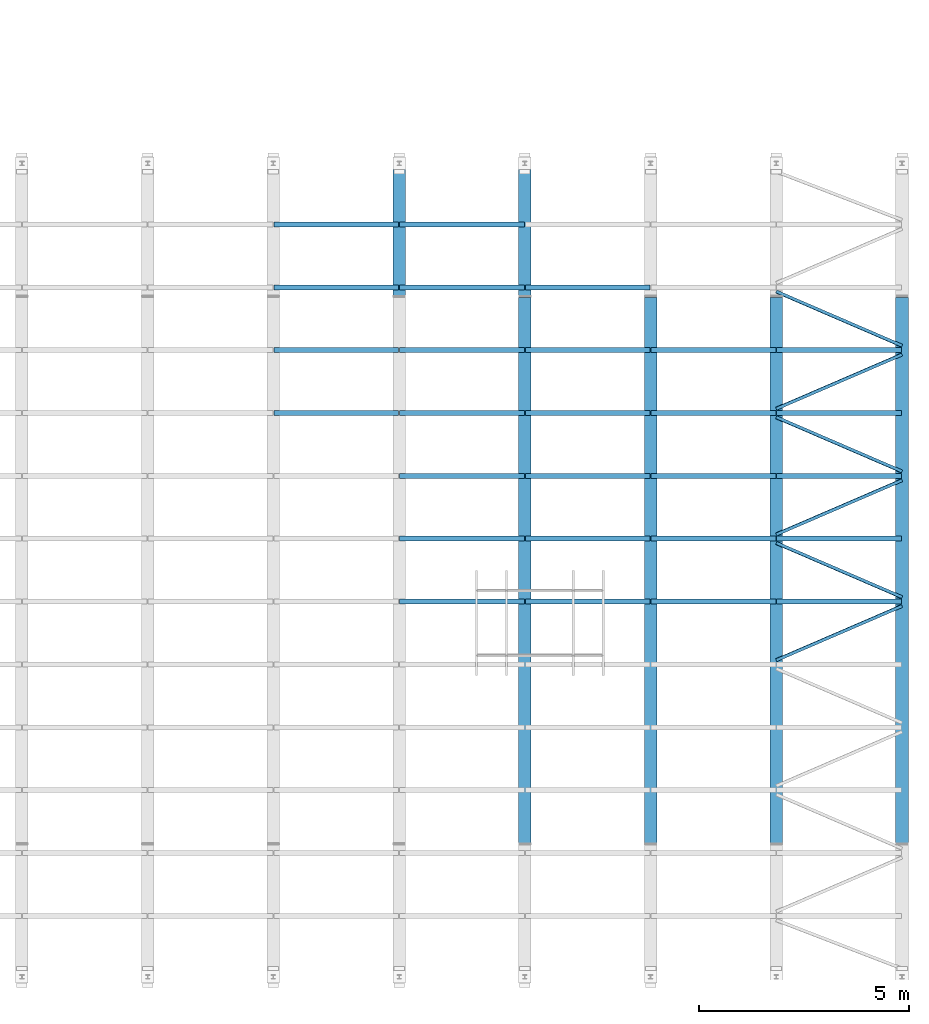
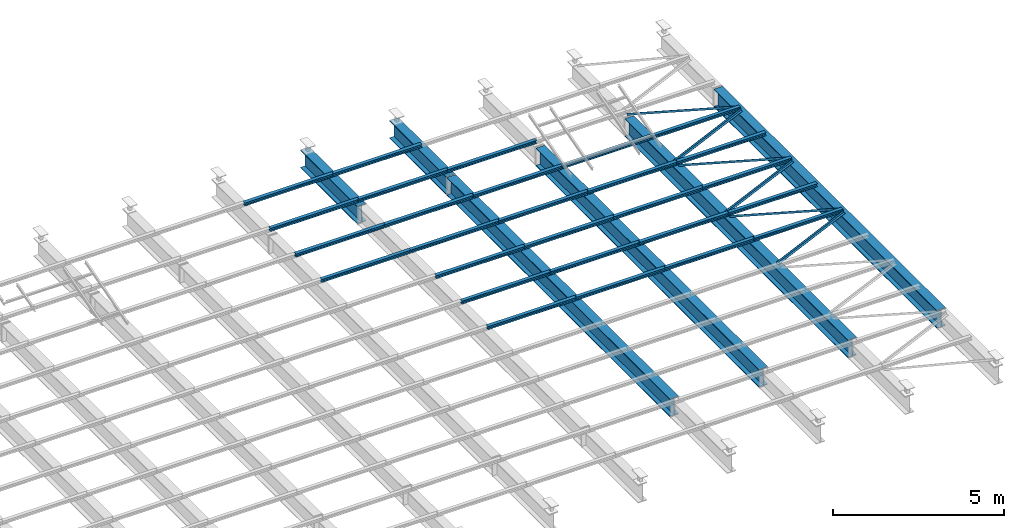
# One storey, part 69 of 139: 39 beams.
"""IFC2X3 building model written with IfcOpenShell, lengths in metres."""

from ifc_helpers import new_model, entity, si_unit, converted_unit, derived_unit, frame, origin, place, context, subcontext, project, spatial, polyline, outline, extrude, material, element, save


model = new_model("IFC2X3")

# Units and contexts
model_context = context("Model", 3, precision=1e-05, world=origin())
body_context = subcontext(model_context, "Body", "Model", "MODEL_VIEW")
ifc_project = project(units=[si_unit("LENGTHUNIT", "METRE"), si_unit("AREAUNIT", "SQUARE_METRE"), si_unit("VOLUMEUNIT", "CUBIC_METRE"), si_unit("MASSUNIT", "GRAM", prefix="KILO"), converted_unit("PLANEANGLEUNIT", "DEGREE", entity("IfcPlaneAngleMeasure", 0.0174532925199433), si_unit("PLANEANGLEUNIT", "RADIAN"), dimensions=[0, 0, 0, 0, 0, 0, 0]), derived_unit("THERMALTRANSMITTANCEUNIT", [(si_unit("POWERUNIT", "WATT"), 1), (si_unit("THERMODYNAMICTEMPERATUREUNIT", "KELVIN"), -1), (si_unit("LENGTHUNIT", "METRE"), -2)]), derived_unit("VOLUMETRICFLOWRATEUNIT", [(si_unit("LENGTHUNIT", "METRE"), 3), (converted_unit("TIMEUNIT", "hour", entity("IfcTimeMeasure", 3600.0), si_unit("TIMEUNIT", "SECOND"), dimensions=[0, 0, 1, 0, 0, 0, 0]), -1), (si_unit("LENGTHUNIT", "METRE"), -1)])], contexts=[model_context])

# Site, building, storey
site_placement = place(None, origin())
site = spatial("IfcSite", under=ifc_project, at=site_placement, Name="TWP_Speiseverteilzentrum SBW VZ II", CompositionType="ELEMENT")
building_placement = place(site_placement, origin())
building = spatial("IfcBuilding", under=site, at=building_placement, Name="Speiseverteilzentrum SBW VZ II", CompositionType="ELEMENT")
storey_placement = place(building_placement, frame((0.0, 0.0, 7.1307)))
storey = spatial("IfcBuildingStorey", under=building, at=storey_placement, Name="Wartung_FFB", CompositionType="ELEMENT", Elevation=7.1307)

# Beams
ifc_material_1 = material(Name="S235")
beam_1_placement = place(storey_placement, frame((112.050000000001, 26.9020742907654, -0.51), z_axis=(0.0, 0.0, 1.0), x_axis=(-1.0, 0.0, 0.0)))
element("IfcBeam", 1, at=beam_1_placement, inside=storey, material=ifc_material_1, Name="Stahlträger", context=body_context, shape_type="SweptSolid", body=[
    extrude(outline(polyline([(-0.15, 0.32), (-0.15, 0.294), (-0.00675000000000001, 0.294), (-0.00675000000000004, -0.294), (-0.15, -0.294), (-0.15, -0.32), (0.15, -0.32), (0.15, -0.294), (0.00674999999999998, -0.294), (0.00675000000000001, 0.294), (0.15, 0.294), (0.15, 0.32), (-0.15, 0.32)])), frame((0.0, 0.0, 0.0), z_axis=(0.0, 1.0, 0.0), x_axis=(-1.0, 0.0, 0.0)), (0.0, 0.0, 1.0), 13.014),
])
ifc_material_2 = material(Name="S235")
beam_2_placement = place(storey_placement, frame((115.050000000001, 26.9020742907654, -0.51), z_axis=(0.0, 0.0, 1.0), x_axis=(-1.0, 0.0, 0.0)))
element("IfcBeam", 2, at=beam_2_placement, inside=storey, material=ifc_material_2, Name="Stahlträger", context=body_context, shape_type="SweptSolid", body=[
    extrude(outline(polyline([(-0.15, 0.32), (-0.15, 0.294), (-0.00675000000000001, 0.294), (-0.00675000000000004, -0.294), (-0.15, -0.294), (-0.15, -0.32), (0.15, -0.32), (0.15, -0.294), (0.00674999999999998, -0.294), (0.00675000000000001, 0.294), (0.15, 0.294), (0.15, 0.32), (-0.15, 0.32)])), frame((0.0, 0.0, 0.0), z_axis=(0.0, 1.0, 0.0), x_axis=(-1.0, 0.0, 0.0)), (0.0, 0.0, 1.0), 13.014),
])
ifc_material_3 = material(Name="S235")
beam_3_placement = place(storey_placement, frame((118.050000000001, 26.9020742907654, -0.51), z_axis=(0.0, 0.0, 1.0), x_axis=(-1.0, 0.0, 0.0)))
element("IfcBeam", 3, at=beam_3_placement, inside=storey, material=ifc_material_3, Name="Stahlträger", context=body_context, shape_type="SweptSolid", body=[
    extrude(outline(polyline([(-0.15, 0.32), (-0.15, 0.294), (-0.00675000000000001, 0.294), (-0.00675000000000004, -0.294), (-0.15, -0.294), (-0.15, -0.32), (0.15, -0.32), (0.15, -0.294), (0.00674999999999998, -0.294), (0.00675000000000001, 0.294), (0.15, 0.294), (0.15, 0.32), (-0.15, 0.32)])), frame((0.0, 0.0, 0.0), z_axis=(0.0, 1.0, 0.0), x_axis=(-1.0, 0.0, 0.0)), (0.0, 0.0, 1.0), 13.014),
])
ifc_material_4 = material(Name="S235")
beam_4_placement = place(storey_placement, frame((121.050000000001, 26.9020742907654, -0.51), z_axis=(0.0, 0.0, 1.0), x_axis=(-1.0, 0.0, 0.0)))
element("IfcBeam", 4, at=beam_4_placement, inside=storey, material=ifc_material_4, Name="Stahlträger", context=body_context, shape_type="SweptSolid", body=[
    extrude(outline(polyline([(-0.15, 0.32), (-0.15, 0.294), (-0.00675000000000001, 0.294), (-0.00675000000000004, -0.294), (-0.15, -0.294), (-0.15, -0.32), (0.15, -0.32), (0.15, -0.294), (0.00674999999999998, -0.294), (0.00675000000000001, 0.294), (0.15, 0.294), (0.15, 0.32), (-0.15, 0.32)])), frame((0.0, 0.0, 0.0), z_axis=(0.0, 1.0, 0.0), x_axis=(-1.0, 0.0, 0.0)), (0.0, 0.0, 1.0), 13.014),
])
ifc_material_5 = material(Name="S235")
beam_5_placement = place(storey_placement, frame((109.050000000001, 30.2500000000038, -0.51), z_axis=(0.0, 0.0, 1.0), x_axis=(-1.0, 0.0, 0.0)))
element("IfcBeam", 5, at=beam_5_placement, inside=storey, material=ifc_material_5, Name="Stahlträger", context=body_context, shape_type="SweptSolid", body=[
    extrude(outline(polyline([(-0.15, 0.32), (-0.15, 0.294), (-0.00675000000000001, 0.294), (-0.00675000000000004, -0.294), (-0.15, -0.294), (-0.15, -0.32), (0.15, -0.32), (0.15, -0.294), (0.00674999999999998, -0.294), (0.00675000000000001, 0.294), (0.15, 0.294), (0.15, 0.32), (-0.15, 0.32)])), frame((0.0, 0.0, 0.0), z_axis=(0.0, 1.0, 0.0), x_axis=(-1.0, 0.0, 0.0)), (0.0, 0.0, 1.0), 3.29792570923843),
])
ifc_material_6 = material(Name="S235")
beam_6_placement = place(storey_placement, frame((112.050000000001, 30.2500000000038, -0.51), z_axis=(0.0, 0.0, 1.0), x_axis=(-1.0, 0.0, 0.0)))
element("IfcBeam", 6, at=beam_6_placement, inside=storey, material=ifc_material_6, Name="Stahlträger", context=body_context, shape_type="SweptSolid", body=[
    extrude(outline(polyline([(-0.15, 0.32), (-0.15, 0.294), (-0.00675000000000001, 0.294), (-0.00675000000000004, -0.294), (-0.15, -0.294), (-0.15, -0.32), (0.15, -0.32), (0.15, -0.294), (0.00674999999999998, -0.294), (0.00675000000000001, 0.294), (0.15, 0.294), (0.15, 0.32), (-0.15, 0.32)])), frame((0.0, 0.0, 0.0), z_axis=(0.0, 1.0, 0.0), x_axis=(-1.0, 0.0, 0.0)), (0.0, 0.0, 1.0), 3.29792570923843),
])
ifc_material_7 = material(Name="S235")
beam_7_placement = place(storey_placement, frame((106.060000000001, 28.6450742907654, -0.133), z_axis=(0.0, 0.0, 1.0), x_axis=(0.0, -1.0, 0.0)))
element("IfcBeam", 7, at=beam_7_placement, inside=storey, material=ifc_material_7, Name="Nebenträger", context=body_context, shape_type="SweptSolid", body=[
    extrude(outline(polyline([(-0.06, 0.0570000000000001), (-0.06, 0.0490000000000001), (-0.00249999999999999, 0.0490000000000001), (-0.0025, -0.0489999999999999), (-0.06, -0.0489999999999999), (-0.06, -0.0569999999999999), (0.06, -0.0569999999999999), (0.06, -0.0489999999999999), (0.0025, -0.0489999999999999), (0.00250000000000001, 0.0490000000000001), (0.06, 0.0490000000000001), (0.06, 0.0570000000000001), (-0.06, 0.0570000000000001)])), frame((0.0, 0.0, 0.0), z_axis=(0.0, 1.0, 0.0), x_axis=(-1.0, 0.0, 0.0)), (0.0, 0.0, 1.0), 2.98),
])
ifc_material_8 = material(Name="S235")
beam_8_placement = place(storey_placement, frame((109.060000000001, 28.6450742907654, -0.133), z_axis=(0.0, 0.0, 1.0), x_axis=(0.0, -1.0, 0.0)))
element("IfcBeam", 8, at=beam_8_placement, inside=storey, material=ifc_material_8, Name="Nebenträger", context=body_context, shape_type="SweptSolid", body=[
    extrude(outline(polyline([(-0.06, 0.0570000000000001), (-0.06, 0.0490000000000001), (-0.00249999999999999, 0.0490000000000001), (-0.0025, -0.0489999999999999), (-0.06, -0.0489999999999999), (-0.06, -0.0569999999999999), (0.06, -0.0569999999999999), (0.06, -0.0489999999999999), (0.0025, -0.0489999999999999), (0.00250000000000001, 0.0490000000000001), (0.06, 0.0490000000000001), (0.06, 0.0570000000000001), (-0.06, 0.0570000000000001)])), frame((0.0, 0.0, 0.0), z_axis=(0.0, 1.0, 0.0), x_axis=(-1.0, 0.0, 0.0)), (0.0, 0.0, 1.0), 2.98),
])
ifc_material_9 = material(Name="S235")
beam_9_placement = place(storey_placement, frame((106.060000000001, 27.1450742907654, -0.133), z_axis=(0.0, 0.0, 1.0), x_axis=(0.0, -1.0, 0.0)))
element("IfcBeam", 9, at=beam_9_placement, inside=storey, material=ifc_material_9, Name="Nebenträger", context=body_context, shape_type="SweptSolid", body=[
    extrude(outline(polyline([(-0.06, 0.0570000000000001), (-0.06, 0.0490000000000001), (-0.00249999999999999, 0.0490000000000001), (-0.0025, -0.0489999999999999), (-0.06, -0.0489999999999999), (-0.06, -0.0569999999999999), (0.06, -0.0569999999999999), (0.06, -0.0489999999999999), (0.0025, -0.0489999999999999), (0.00250000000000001, 0.0490000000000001), (0.06, 0.0490000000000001), (0.06, 0.0570000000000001), (-0.06, 0.0570000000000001)])), frame((0.0, 0.0, 0.0), z_axis=(0.0, 1.0, 0.0), x_axis=(-1.0, 0.0, 0.0)), (0.0, 0.0, 1.0), 2.98),
])
ifc_material_10 = material(Name="S235")
beam_10_placement = place(storey_placement, frame((109.060000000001, 27.1450742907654, -0.133), z_axis=(0.0, 0.0, 1.0), x_axis=(0.0, -1.0, 0.0)))
element("IfcBeam", 10, at=beam_10_placement, inside=storey, material=ifc_material_10, Name="Nebenträger", context=body_context, shape_type="SweptSolid", body=[
    extrude(outline(polyline([(-0.06, 0.0570000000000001), (-0.06, 0.0490000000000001), (-0.00249999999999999, 0.0490000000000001), (-0.0025, -0.0489999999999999), (-0.06, -0.0489999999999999), (-0.06, -0.0569999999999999), (0.06, -0.0569999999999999), (0.06, -0.0489999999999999), (0.0025, -0.0489999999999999), (0.00250000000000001, 0.0490000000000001), (0.06, 0.0490000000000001), (0.06, 0.0570000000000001), (-0.06, 0.0570000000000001)])), frame((0.0, 0.0, 0.0), z_axis=(0.0, 1.0, 0.0), x_axis=(-1.0, 0.0, 0.0)), (0.0, 0.0, 1.0), 2.98),
])
ifc_material_11 = material(Name="S235")
beam_11_placement = place(storey_placement, frame((112.060000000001, 27.1450742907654, -0.133), z_axis=(0.0, 0.0, 1.0), x_axis=(0.0, -1.0, 0.0)))
element("IfcBeam", 11, at=beam_11_placement, inside=storey, material=ifc_material_11, Name="Nebenträger", context=body_context, shape_type="SweptSolid", body=[
    extrude(outline(polyline([(-0.06, 0.0570000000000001), (-0.06, 0.0490000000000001), (-0.00249999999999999, 0.0490000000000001), (-0.0025, -0.0489999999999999), (-0.06, -0.0489999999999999), (-0.06, -0.0569999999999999), (0.06, -0.0569999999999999), (0.06, -0.0489999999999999), (0.0025, -0.0489999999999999), (0.00250000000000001, 0.0490000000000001), (0.06, 0.0490000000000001), (0.06, 0.0570000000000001), (-0.06, 0.0570000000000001)])), frame((0.0, 0.0, 0.0), z_axis=(0.0, 1.0, 0.0), x_axis=(-1.0, 0.0, 0.0)), (0.0, 0.0, 1.0), 2.98),
])
ifc_material_12 = material(Name="S235")
beam_12_placement = place(storey_placement, frame((106.060000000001, 25.6450742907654, -0.133), z_axis=(0.0, 0.0, 1.0), x_axis=(0.0, -1.0, 0.0)))
element("IfcBeam", 12, at=beam_12_placement, inside=storey, material=ifc_material_12, Name="Nebenträger", context=body_context, shape_type="SweptSolid", body=[
    extrude(outline(polyline([(-0.06, 0.0570000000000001), (-0.06, 0.0490000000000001), (-0.00249999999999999, 0.0490000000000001), (-0.0025, -0.0489999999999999), (-0.06, -0.0489999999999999), (-0.06, -0.0569999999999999), (0.06, -0.0569999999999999), (0.06, -0.0489999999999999), (0.0025, -0.0489999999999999), (0.00250000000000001, 0.0490000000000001), (0.06, 0.0490000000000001), (0.06, 0.0570000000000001), (-0.06, 0.0570000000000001)])), frame((0.0, 0.0, 0.0), z_axis=(0.0, 1.0, 0.0), x_axis=(-1.0, 0.0, 0.0)), (0.0, 0.0, 1.0), 2.98),
])
ifc_material_13 = material(Name="S235")
beam_13_placement = place(storey_placement, frame((109.060000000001, 25.6450742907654, -0.133), z_axis=(0.0, 0.0, 1.0), x_axis=(0.0, -1.0, 0.0)))
element("IfcBeam", 13, at=beam_13_placement, inside=storey, material=ifc_material_13, Name="Nebenträger", context=body_context, shape_type="SweptSolid", body=[
    extrude(outline(polyline([(-0.06, 0.0570000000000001), (-0.06, 0.0490000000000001), (-0.00249999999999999, 0.0490000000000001), (-0.0025, -0.0489999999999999), (-0.06, -0.0489999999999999), (-0.06, -0.0569999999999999), (0.06, -0.0569999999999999), (0.06, -0.0489999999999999), (0.0025, -0.0489999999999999), (0.00250000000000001, 0.0490000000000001), (0.06, 0.0490000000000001), (0.06, 0.0570000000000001), (-0.06, 0.0570000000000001)])), frame((0.0, 0.0, 0.0), z_axis=(0.0, 1.0, 0.0), x_axis=(-1.0, 0.0, 0.0)), (0.0, 0.0, 1.0), 2.98),
])
ifc_material_14 = material(Name="S235")
beam_14_placement = place(storey_placement, frame((112.060000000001, 25.6450742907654, -0.133), z_axis=(0.0, 0.0, 1.0), x_axis=(0.0, -1.0, 0.0)))
element("IfcBeam", 14, at=beam_14_placement, inside=storey, material=ifc_material_14, Name="Nebenträger", context=body_context, shape_type="SweptSolid", body=[
    extrude(outline(polyline([(-0.06, 0.0570000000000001), (-0.06, 0.0490000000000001), (-0.00249999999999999, 0.0490000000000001), (-0.0025, -0.0489999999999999), (-0.06, -0.0489999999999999), (-0.06, -0.0569999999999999), (0.06, -0.0569999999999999), (0.06, -0.0489999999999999), (0.0025, -0.0489999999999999), (0.00250000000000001, 0.0490000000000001), (0.06, 0.0490000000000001), (0.06, 0.0570000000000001), (-0.06, 0.0570000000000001)])), frame((0.0, 0.0, 0.0), z_axis=(0.0, 1.0, 0.0), x_axis=(-1.0, 0.0, 0.0)), (0.0, 0.0, 1.0), 2.98),
])
ifc_material_15 = material(Name="S235")
beam_15_placement = place(storey_placement, frame((115.060000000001, 25.6450742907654, -0.133), z_axis=(0.0, 0.0, 1.0), x_axis=(0.0, -1.0, 0.0)))
element("IfcBeam", 15, at=beam_15_placement, inside=storey, material=ifc_material_15, Name="Nebenträger", context=body_context, shape_type="SweptSolid", body=[
    extrude(outline(polyline([(-0.06, 0.0570000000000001), (-0.06, 0.0490000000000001), (-0.00249999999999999, 0.0490000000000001), (-0.0025, -0.0489999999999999), (-0.06, -0.0489999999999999), (-0.06, -0.0569999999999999), (0.06, -0.0569999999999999), (0.06, -0.0489999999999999), (0.0025, -0.0489999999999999), (0.00250000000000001, 0.0490000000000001), (0.06, 0.0490000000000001), (0.06, 0.0570000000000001), (-0.06, 0.0570000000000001)])), frame((0.0, 0.0, 0.0), z_axis=(0.0, 1.0, 0.0), x_axis=(-1.0, 0.0, 0.0)), (0.0, 0.0, 1.0), 2.98),
])
ifc_material_16 = material(Name="S235")
beam_16_placement = place(storey_placement, frame((118.060000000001, 25.6450742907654, -0.133), z_axis=(0.0, 0.0, 1.0), x_axis=(0.0, -1.0, 0.0)))
element("IfcBeam", 16, at=beam_16_placement, inside=storey, material=ifc_material_16, Name="Nebenträger", context=body_context, shape_type="SweptSolid", body=[
    extrude(outline(polyline([(-0.06, 0.0570000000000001), (-0.06, 0.0490000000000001), (-0.00249999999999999, 0.0490000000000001), (-0.0025, -0.0489999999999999), (-0.06, -0.0489999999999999), (-0.06, -0.0569999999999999), (0.06, -0.0569999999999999), (0.06, -0.0489999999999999), (0.0025, -0.0489999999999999), (0.00250000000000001, 0.0490000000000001), (0.06, 0.0490000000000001), (0.06, 0.0570000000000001), (-0.06, 0.0570000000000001)])), frame((0.0, 0.0, 0.0), z_axis=(0.0, 1.0, 0.0), x_axis=(-1.0, 0.0, 0.0)), (0.0, 0.0, 1.0), 2.98),
])
ifc_material_17 = material(Name="S235")
beam_17_placement = place(storey_placement, frame((106.060000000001, 24.1450742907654, -0.133), z_axis=(0.0, 0.0, 1.0), x_axis=(0.0, -1.0, 0.0)))
element("IfcBeam", 17, at=beam_17_placement, inside=storey, material=ifc_material_17, Name="Nebenträger", context=body_context, shape_type="SweptSolid", body=[
    extrude(outline(polyline([(-0.06, 0.0570000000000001), (-0.06, 0.0490000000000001), (-0.00249999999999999, 0.0490000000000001), (-0.0025, -0.0489999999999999), (-0.06, -0.0489999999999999), (-0.06, -0.0569999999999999), (0.06, -0.0569999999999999), (0.06, -0.0489999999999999), (0.0025, -0.0489999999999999), (0.00250000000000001, 0.0490000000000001), (0.06, 0.0490000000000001), (0.06, 0.0570000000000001), (-0.06, 0.0570000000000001)])), frame((0.0, 0.0, 0.0), z_axis=(0.0, 1.0, 0.0), x_axis=(-1.0, 0.0, 0.0)), (0.0, 0.0, 1.0), 2.98),
])
ifc_material_18 = material(Name="S235")
beam_18_placement = place(storey_placement, frame((109.060000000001, 24.1450742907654, -0.133), z_axis=(0.0, 0.0, 1.0), x_axis=(0.0, -1.0, 0.0)))
element("IfcBeam", 18, at=beam_18_placement, inside=storey, material=ifc_material_18, Name="Nebenträger", context=body_context, shape_type="SweptSolid", body=[
    extrude(outline(polyline([(-0.06, 0.0570000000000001), (-0.06, 0.0490000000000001), (-0.00249999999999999, 0.0490000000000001), (-0.0025, -0.0489999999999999), (-0.06, -0.0489999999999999), (-0.06, -0.0569999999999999), (0.06, -0.0569999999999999), (0.06, -0.0489999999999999), (0.0025, -0.0489999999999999), (0.00250000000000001, 0.0490000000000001), (0.06, 0.0490000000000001), (0.06, 0.0570000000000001), (-0.06, 0.0570000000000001)])), frame((0.0, 0.0, 0.0), z_axis=(0.0, 1.0, 0.0), x_axis=(-1.0, 0.0, 0.0)), (0.0, 0.0, 1.0), 2.98),
])
ifc_material_19 = material(Name="S235")
beam_19_placement = place(storey_placement, frame((112.060000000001, 24.1450742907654, -0.133), z_axis=(0.0, 0.0, 1.0), x_axis=(0.0, -1.0, 0.0)))
element("IfcBeam", 19, at=beam_19_placement, inside=storey, material=ifc_material_19, Name="Nebenträger", context=body_context, shape_type="SweptSolid", body=[
    extrude(outline(polyline([(-0.06, 0.0570000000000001), (-0.06, 0.0490000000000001), (-0.00249999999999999, 0.0490000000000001), (-0.0025, -0.0489999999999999), (-0.06, -0.0489999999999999), (-0.06, -0.0569999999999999), (0.06, -0.0569999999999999), (0.06, -0.0489999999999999), (0.0025, -0.0489999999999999), (0.00250000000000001, 0.0490000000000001), (0.06, 0.0490000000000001), (0.06, 0.0570000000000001), (-0.06, 0.0570000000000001)])), frame((0.0, 0.0, 0.0), z_axis=(0.0, 1.0, 0.0), x_axis=(-1.0, 0.0, 0.0)), (0.0, 0.0, 1.0), 2.98),
])
ifc_material_20 = material(Name="S235")
beam_20_placement = place(storey_placement, frame((115.060000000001, 24.1450742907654, -0.133), z_axis=(0.0, 0.0, 1.0), x_axis=(0.0, -1.0, 0.0)))
element("IfcBeam", 20, at=beam_20_placement, inside=storey, material=ifc_material_20, Name="Nebenträger", context=body_context, shape_type="SweptSolid", body=[
    extrude(outline(polyline([(-0.06, 0.0570000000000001), (-0.06, 0.0490000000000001), (-0.00249999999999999, 0.0490000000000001), (-0.0025, -0.0489999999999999), (-0.06, -0.0489999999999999), (-0.06, -0.0569999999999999), (0.06, -0.0569999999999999), (0.06, -0.0489999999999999), (0.0025, -0.0489999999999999), (0.00250000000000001, 0.0490000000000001), (0.06, 0.0490000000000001), (0.06, 0.0570000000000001), (-0.06, 0.0570000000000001)])), frame((0.0, 0.0, 0.0), z_axis=(0.0, 1.0, 0.0), x_axis=(-1.0, 0.0, 0.0)), (0.0, 0.0, 1.0), 2.98),
])
ifc_material_21 = material(Name="S235")
beam_21_placement = place(storey_placement, frame((118.060000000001, 24.1450742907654, -0.133), z_axis=(0.0, 0.0, 1.0), x_axis=(0.0, -1.0, 0.0)))
element("IfcBeam", 21, at=beam_21_placement, inside=storey, material=ifc_material_21, Name="Nebenträger", context=body_context, shape_type="SweptSolid", body=[
    extrude(outline(polyline([(-0.06, 0.0570000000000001), (-0.06, 0.0490000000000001), (-0.00249999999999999, 0.0490000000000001), (-0.0025, -0.0489999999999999), (-0.06, -0.0489999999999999), (-0.06, -0.0569999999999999), (0.06, -0.0569999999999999), (0.06, -0.0489999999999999), (0.0025, -0.0489999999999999), (0.00250000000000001, 0.0490000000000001), (0.06, 0.0490000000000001), (0.06, 0.0570000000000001), (-0.06, 0.0570000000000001)])), frame((0.0, 0.0, 0.0), z_axis=(0.0, 1.0, 0.0), x_axis=(-1.0, 0.0, 0.0)), (0.0, 0.0, 1.0), 2.98),
])
ifc_material_22 = material(Name="S235")
beam_22_placement = place(storey_placement, frame((109.060000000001, 22.6450742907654, -0.133), z_axis=(0.0, 0.0, 1.0), x_axis=(0.0, -1.0, 0.0)))
element("IfcBeam", 22, at=beam_22_placement, inside=storey, material=ifc_material_22, Name="Nebenträger", context=body_context, shape_type="SweptSolid", body=[
    extrude(outline(polyline([(-0.06, 0.0570000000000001), (-0.06, 0.0490000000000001), (-0.00249999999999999, 0.0490000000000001), (-0.0025, -0.0489999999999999), (-0.06, -0.0489999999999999), (-0.06, -0.0569999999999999), (0.06, -0.0569999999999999), (0.06, -0.0489999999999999), (0.0025, -0.0489999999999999), (0.00250000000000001, 0.0490000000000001), (0.06, 0.0490000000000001), (0.06, 0.0570000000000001), (-0.06, 0.0570000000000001)])), frame((0.0, 0.0, 0.0), z_axis=(0.0, 1.0, 0.0), x_axis=(-1.0, 0.0, 0.0)), (0.0, 0.0, 1.0), 2.98),
])
ifc_material_23 = material(Name="S235")
beam_23_placement = place(storey_placement, frame((112.060000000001, 22.6450742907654, -0.133), z_axis=(0.0, 0.0, 1.0), x_axis=(0.0, -1.0, 0.0)))
element("IfcBeam", 23, at=beam_23_placement, inside=storey, material=ifc_material_23, Name="Nebenträger", context=body_context, shape_type="SweptSolid", body=[
    extrude(outline(polyline([(-0.06, 0.0570000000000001), (-0.06, 0.0490000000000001), (-0.00249999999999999, 0.0490000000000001), (-0.0025, -0.0489999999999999), (-0.06, -0.0489999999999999), (-0.06, -0.0569999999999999), (0.06, -0.0569999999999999), (0.06, -0.0489999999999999), (0.0025, -0.0489999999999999), (0.00250000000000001, 0.0490000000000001), (0.06, 0.0490000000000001), (0.06, 0.0570000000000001), (-0.06, 0.0570000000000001)])), frame((0.0, 0.0, 0.0), z_axis=(0.0, 1.0, 0.0), x_axis=(-1.0, 0.0, 0.0)), (0.0, 0.0, 1.0), 2.98),
])
ifc_material_24 = material(Name="S235")
beam_24_placement = place(storey_placement, frame((115.060000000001, 22.6450742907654, -0.133), z_axis=(0.0, 0.0, 1.0), x_axis=(0.0, -1.0, 0.0)))
element("IfcBeam", 24, at=beam_24_placement, inside=storey, material=ifc_material_24, Name="Nebenträger", context=body_context, shape_type="SweptSolid", body=[
    extrude(outline(polyline([(-0.06, 0.0570000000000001), (-0.06, 0.0490000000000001), (-0.00249999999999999, 0.0490000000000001), (-0.0025, -0.0489999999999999), (-0.06, -0.0489999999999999), (-0.06, -0.0569999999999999), (0.06, -0.0569999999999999), (0.06, -0.0489999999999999), (0.0025, -0.0489999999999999), (0.00250000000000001, 0.0490000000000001), (0.06, 0.0490000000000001), (0.06, 0.0570000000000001), (-0.06, 0.0570000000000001)])), frame((0.0, 0.0, 0.0), z_axis=(0.0, 1.0, 0.0), x_axis=(-1.0, 0.0, 0.0)), (0.0, 0.0, 1.0), 2.98),
])
ifc_material_25 = material(Name="S235")
beam_25_placement = place(storey_placement, frame((118.060000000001, 22.6450742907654, -0.133), z_axis=(0.0, 0.0, 1.0), x_axis=(0.0, -1.0, 0.0)))
element("IfcBeam", 25, at=beam_25_placement, inside=storey, material=ifc_material_25, Name="Nebenträger", context=body_context, shape_type="SweptSolid", body=[
    extrude(outline(polyline([(-0.06, 0.0570000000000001), (-0.06, 0.0490000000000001), (-0.00249999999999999, 0.0490000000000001), (-0.0025, -0.0489999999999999), (-0.06, -0.0489999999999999), (-0.06, -0.0569999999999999), (0.06, -0.0569999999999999), (0.06, -0.0489999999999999), (0.0025, -0.0489999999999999), (0.00250000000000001, 0.0490000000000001), (0.06, 0.0490000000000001), (0.06, 0.0570000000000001), (-0.06, 0.0570000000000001)])), frame((0.0, 0.0, 0.0), z_axis=(0.0, 1.0, 0.0), x_axis=(-1.0, 0.0, 0.0)), (0.0, 0.0, 1.0), 2.98),
])
ifc_material_26 = material(Name="S235")
beam_26_placement = place(storey_placement, frame((109.060000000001, 21.1450742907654, -0.133), z_axis=(0.0, 0.0, 1.0), x_axis=(0.0, -1.0, 0.0)))
element("IfcBeam", 26, at=beam_26_placement, inside=storey, material=ifc_material_26, Name="Nebenträger", context=body_context, shape_type="SweptSolid", body=[
    extrude(outline(polyline([(-0.06, 0.0570000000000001), (-0.06, 0.0490000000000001), (-0.00249999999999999, 0.0490000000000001), (-0.0025, -0.0489999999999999), (-0.06, -0.0489999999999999), (-0.06, -0.0569999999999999), (0.06, -0.0569999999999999), (0.06, -0.0489999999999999), (0.0025, -0.0489999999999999), (0.00250000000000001, 0.0490000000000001), (0.06, 0.0490000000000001), (0.06, 0.0570000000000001), (-0.06, 0.0570000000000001)])), frame((0.0, 0.0, 0.0), z_axis=(0.0, 1.0, 0.0), x_axis=(-1.0, 0.0, 0.0)), (0.0, 0.0, 1.0), 2.98),
])
ifc_material_27 = material(Name="S235")
beam_27_placement = place(storey_placement, frame((112.060000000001, 21.1450742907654, -0.133), z_axis=(0.0, 0.0, 1.0), x_axis=(0.0, -1.0, 0.0)))
element("IfcBeam", 27, at=beam_27_placement, inside=storey, material=ifc_material_27, Name="Nebenträger", context=body_context, shape_type="SweptSolid", body=[
    extrude(outline(polyline([(-0.06, 0.0570000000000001), (-0.06, 0.0490000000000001), (-0.00249999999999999, 0.0490000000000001), (-0.0025, -0.0489999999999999), (-0.06, -0.0489999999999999), (-0.06, -0.0569999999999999), (0.06, -0.0569999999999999), (0.06, -0.0489999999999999), (0.0025, -0.0489999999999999), (0.00250000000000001, 0.0490000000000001), (0.06, 0.0490000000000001), (0.06, 0.0570000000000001), (-0.06, 0.0570000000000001)])), frame((0.0, 0.0, 0.0), z_axis=(0.0, 1.0, 0.0), x_axis=(-1.0, 0.0, 0.0)), (0.0, 0.0, 1.0), 2.98),
])
ifc_material_28 = material(Name="S235")
beam_28_placement = place(storey_placement, frame((115.060000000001, 21.1450742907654, -0.133), z_axis=(0.0, 0.0, 1.0), x_axis=(0.0, -1.0, 0.0)))
element("IfcBeam", 28, at=beam_28_placement, inside=storey, material=ifc_material_28, Name="Nebenträger", context=body_context, shape_type="SweptSolid", body=[
    extrude(outline(polyline([(-0.06, 0.0570000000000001), (-0.06, 0.0490000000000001), (-0.00249999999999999, 0.0490000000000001), (-0.0025, -0.0489999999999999), (-0.06, -0.0489999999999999), (-0.06, -0.0569999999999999), (0.06, -0.0569999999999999), (0.06, -0.0489999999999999), (0.0025, -0.0489999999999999), (0.00250000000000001, 0.0490000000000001), (0.06, 0.0490000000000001), (0.06, 0.0570000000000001), (-0.06, 0.0570000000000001)])), frame((0.0, 0.0, 0.0), z_axis=(0.0, 1.0, 0.0), x_axis=(-1.0, 0.0, 0.0)), (0.0, 0.0, 1.0), 2.98),
])
ifc_material_29 = material(Name="S235")
beam_29_placement = place(storey_placement, frame((118.060000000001, 21.1450742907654, -0.133), z_axis=(0.0, 0.0, 1.0), x_axis=(0.0, -1.0, 0.0)))
element("IfcBeam", 29, at=beam_29_placement, inside=storey, material=ifc_material_29, Name="Nebenträger", context=body_context, shape_type="SweptSolid", body=[
    extrude(outline(polyline([(-0.06, 0.0570000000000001), (-0.06, 0.0490000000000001), (-0.00249999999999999, 0.0490000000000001), (-0.0025, -0.0489999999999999), (-0.06, -0.0489999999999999), (-0.06, -0.0569999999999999), (0.06, -0.0569999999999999), (0.06, -0.0489999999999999), (0.0025, -0.0489999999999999), (0.00250000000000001, 0.0490000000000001), (0.06, 0.0490000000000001), (0.06, 0.0570000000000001), (-0.06, 0.0570000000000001)])), frame((0.0, 0.0, 0.0), z_axis=(0.0, 1.0, 0.0), x_axis=(-1.0, 0.0, 0.0)), (0.0, 0.0, 1.0), 2.98),
])
ifc_material_30 = material(Name="S235")
beam_30_placement = place(storey_placement, frame((109.060000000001, 19.6450742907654, -0.133), z_axis=(0.0, 0.0, 1.0), x_axis=(0.0, -1.0, 0.0)))
element("IfcBeam", 30, at=beam_30_placement, inside=storey, material=ifc_material_30, Name="Nebenträger", context=body_context, shape_type="SweptSolid", body=[
    extrude(outline(polyline([(-0.06, 0.0570000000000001), (-0.06, 0.0490000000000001), (-0.00249999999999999, 0.0490000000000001), (-0.0025, -0.0489999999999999), (-0.06, -0.0489999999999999), (-0.06, -0.0569999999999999), (0.06, -0.0569999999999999), (0.06, -0.0489999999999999), (0.0025, -0.0489999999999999), (0.00250000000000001, 0.0490000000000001), (0.06, 0.0490000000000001), (0.06, 0.0570000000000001), (-0.06, 0.0570000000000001)])), frame((0.0, 0.0, 0.0), z_axis=(0.0, 1.0, 0.0), x_axis=(-1.0, 0.0, 0.0)), (0.0, 0.0, 1.0), 2.98),
])
ifc_material_31 = material(Name="S235")
beam_31_placement = place(storey_placement, frame((112.060000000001, 19.6450742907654, -0.133), z_axis=(0.0, 0.0, 1.0), x_axis=(0.0, -1.0, 0.0)))
element("IfcBeam", 31, at=beam_31_placement, inside=storey, material=ifc_material_31, Name="Nebenträger", context=body_context, shape_type="SweptSolid", body=[
    extrude(outline(polyline([(-0.06, 0.0570000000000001), (-0.06, 0.0490000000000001), (-0.00249999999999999, 0.0490000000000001), (-0.0025, -0.0489999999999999), (-0.06, -0.0489999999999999), (-0.06, -0.0569999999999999), (0.06, -0.0569999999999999), (0.06, -0.0489999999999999), (0.0025, -0.0489999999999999), (0.00250000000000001, 0.0490000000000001), (0.06, 0.0490000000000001), (0.06, 0.0570000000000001), (-0.06, 0.0570000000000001)])), frame((0.0, 0.0, 0.0), z_axis=(0.0, 1.0, 0.0), x_axis=(-1.0, 0.0, 0.0)), (0.0, 0.0, 1.0), 2.98),
])
ifc_material_32 = material(Name="S235")
beam_32_placement = place(storey_placement, frame((115.060000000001, 19.6450742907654, -0.133), z_axis=(0.0, 0.0, 1.0), x_axis=(0.0, -1.0, 0.0)))
element("IfcBeam", 32, at=beam_32_placement, inside=storey, material=ifc_material_32, Name="Nebenträger", context=body_context, shape_type="SweptSolid", body=[
    extrude(outline(polyline([(-0.06, 0.0570000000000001), (-0.06, 0.0490000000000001), (-0.00249999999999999, 0.0490000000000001), (-0.0025, -0.0489999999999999), (-0.06, -0.0489999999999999), (-0.06, -0.0569999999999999), (0.06, -0.0569999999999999), (0.06, -0.0489999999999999), (0.0025, -0.0489999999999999), (0.00250000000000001, 0.0490000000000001), (0.06, 0.0490000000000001), (0.06, 0.0570000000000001), (-0.06, 0.0570000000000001)])), frame((0.0, 0.0, 0.0), z_axis=(0.0, 1.0, 0.0), x_axis=(-1.0, 0.0, 0.0)), (0.0, 0.0, 1.0), 2.98),
])
ifc_material_33 = material(Name="S235")
beam_33_placement = place(storey_placement, frame((118.060000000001, 19.6450742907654, -0.133), z_axis=(0.0, 0.0, 1.0), x_axis=(0.0, -1.0, 0.0)))
element("IfcBeam", 33, at=beam_33_placement, inside=storey, material=ifc_material_33, Name="Nebenträger", context=body_context, shape_type="SweptSolid", body=[
    extrude(outline(polyline([(-0.06, 0.0570000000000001), (-0.06, 0.0490000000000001), (-0.00249999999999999, 0.0490000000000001), (-0.0025, -0.0489999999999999), (-0.06, -0.0489999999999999), (-0.06, -0.0569999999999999), (0.06, -0.0569999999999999), (0.06, -0.0489999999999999), (0.0025, -0.0489999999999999), (0.00250000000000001, 0.0490000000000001), (0.06, 0.0490000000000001), (0.06, 0.0570000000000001), (-0.06, 0.0570000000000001)])), frame((0.0, 0.0, 0.0), z_axis=(0.0, 1.0, 0.0), x_axis=(-1.0, 0.0, 0.0)), (0.0, 0.0, 1.0), 2.98),
])
ifc_material_34 = material(Name="S235")
beam_34_placement = place(storey_placement, frame((118.040691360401, 24.2634673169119, -0.167052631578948), z_axis=(0.0, 0.0, 1.0), x_axis=(0.395932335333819, -0.91827968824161, 0.0)))
element("IfcBeam", 34, at=beam_34_placement, inside=storey, material=ifc_material_34, Name="Kreuzverband", context=body_context, shape_type="SweptSolid", body=[
    extrude(outline(polyline([(0.0229473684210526, -0.0229473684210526), (0.0229473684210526, 0.0570526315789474), (0.0149473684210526, 0.0570526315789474), (0.0149473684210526, -0.0149473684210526), (-0.0570526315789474, -0.0149473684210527), (-0.0570526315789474, -0.0229473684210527), (0.0229473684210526, -0.0229473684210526)])), frame((0.0, 0.0, 0.0), z_axis=(0.0, 0.999999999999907, 0.0), x_axis=(-1.0, 0.0, 0.0)), (0.0, 0.0, 1.0), 3.27000000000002),
])
ifc_material_35 = material(Name="S235")
beam_35_placement = place(storey_placement, frame((118.040691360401, 27.0266812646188, -0.167052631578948), z_axis=(0.0, 0.0, 1.0), x_axis=(-0.395932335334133, -0.918279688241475, 0.0)))
element("IfcBeam", 35, at=beam_35_placement, inside=storey, material=ifc_material_35, Name="Kreuzverband", context=body_context, shape_type="SweptSolid", body=[
    extrude(outline(polyline([(0.0570526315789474, -0.0229473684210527), (0.0570526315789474, -0.0149473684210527), (-0.0149473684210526, -0.0149473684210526), (-0.0149473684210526, 0.0570526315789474), (-0.0229473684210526, 0.0570526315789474), (-0.0229473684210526, -0.0229473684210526), (0.0570526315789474, -0.0229473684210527)])), frame((0.0, 0.0, 0.0), z_axis=(0.0, 1.00000000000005, 0.0), x_axis=(-1.0, 0.0, 0.0)), (0.0, 0.0, 1.0), 3.27000000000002),
])
ifc_material_36 = material(Name="S235")
beam_36_placement = place(storey_placement, frame((118.040691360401, 21.2634673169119, -0.167052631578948), z_axis=(0.0, 0.0, 1.0), x_axis=(0.395932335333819, -0.91827968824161, 0.0)))
element("IfcBeam", 36, at=beam_36_placement, inside=storey, material=ifc_material_36, Name="Kreuzverband", context=body_context, shape_type="SweptSolid", body=[
    extrude(outline(polyline([(0.0229473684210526, -0.0229473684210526), (0.0229473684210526, 0.0570526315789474), (0.0149473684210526, 0.0570526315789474), (0.0149473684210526, -0.0149473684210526), (-0.0570526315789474, -0.0149473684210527), (-0.0570526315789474, -0.0229473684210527), (0.0229473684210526, -0.0229473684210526)])), frame((0.0, 0.0, 0.0), z_axis=(0.0, 0.999999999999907, 0.0), x_axis=(-1.0, 0.0, 0.0)), (0.0, 0.0, 1.0), 3.27000000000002),
])
ifc_material_37 = material(Name="S235")
beam_37_placement = place(storey_placement, frame((118.040691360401, 24.0266812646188, -0.167052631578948), z_axis=(0.0, 0.0, 1.0), x_axis=(-0.395932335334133, -0.918279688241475, 0.0)))
element("IfcBeam", 37, at=beam_37_placement, inside=storey, material=ifc_material_37, Name="Kreuzverband", context=body_context, shape_type="SweptSolid", body=[
    extrude(outline(polyline([(0.0570526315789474, -0.0229473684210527), (0.0570526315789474, -0.0149473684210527), (-0.0149473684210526, -0.0149473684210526), (-0.0149473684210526, 0.0570526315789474), (-0.0229473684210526, 0.0570526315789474), (-0.0229473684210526, -0.0229473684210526), (0.0570526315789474, -0.0229473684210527)])), frame((0.0, 0.0, 0.0), z_axis=(0.0, 1.00000000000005, 0.0), x_axis=(-1.0, 0.0, 0.0)), (0.0, 0.0, 1.0), 3.27000000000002),
])
ifc_material_38 = material(Name="S235")
beam_38_placement = place(storey_placement, frame((118.040691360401, 18.2634673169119, -0.167052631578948), z_axis=(0.0, 0.0, 1.0), x_axis=(0.395932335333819, -0.91827968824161, 0.0)))
element("IfcBeam", 38, at=beam_38_placement, inside=storey, material=ifc_material_38, Name="Kreuzverband", context=body_context, shape_type="SweptSolid", body=[
    extrude(outline(polyline([(0.0229473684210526, -0.0229473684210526), (0.0229473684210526, 0.0570526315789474), (0.0149473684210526, 0.0570526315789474), (0.0149473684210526, -0.0149473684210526), (-0.0570526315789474, -0.0149473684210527), (-0.0570526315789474, -0.0229473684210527), (0.0229473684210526, -0.0229473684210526)])), frame((0.0, 0.0, 0.0), z_axis=(0.0, 0.999999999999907, 0.0), x_axis=(-1.0, 0.0, 0.0)), (0.0, 0.0, 1.0), 3.27000000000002),
])
ifc_material_39 = material(Name="S235")
beam_39_placement = place(storey_placement, frame((118.040691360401, 21.0266812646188, -0.167052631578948), z_axis=(0.0, 0.0, 1.0), x_axis=(-0.395932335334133, -0.918279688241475, 0.0)))
element("IfcBeam", 39, at=beam_39_placement, inside=storey, material=ifc_material_39, Name="Kreuzverband", context=body_context, shape_type="SweptSolid", body=[
    extrude(outline(polyline([(0.0570526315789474, -0.0229473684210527), (0.0570526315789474, -0.0149473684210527), (-0.0149473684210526, -0.0149473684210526), (-0.0149473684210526, 0.0570526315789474), (-0.0229473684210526, 0.0570526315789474), (-0.0229473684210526, -0.0229473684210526), (0.0570526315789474, -0.0229473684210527)])), frame((0.0, 0.0, 0.0), z_axis=(0.0, 1.00000000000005, 0.0), x_axis=(-1.0, 0.0, 0.0)), (0.0, 0.0, 1.0), 3.27000000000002),
])

save(model, "model.ifc")
